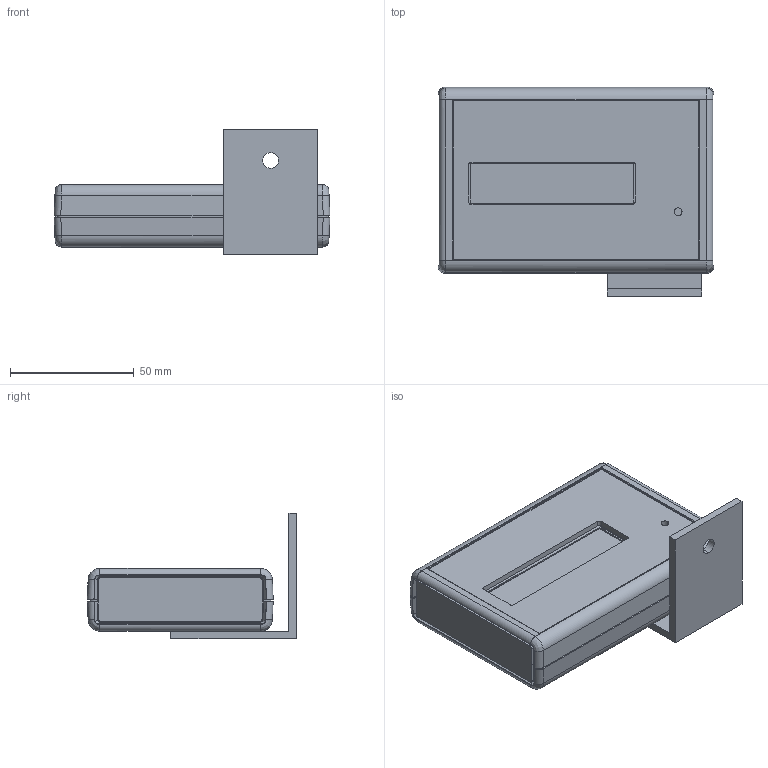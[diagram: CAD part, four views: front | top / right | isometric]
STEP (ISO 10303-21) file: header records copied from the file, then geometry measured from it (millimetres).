
FILE_DESCRIPTION (( 'STEP AP214' ), '1' );
FILE_NAME ('MAXTACH1593N.STEP', '2012-05-22T05:02:43', ( 'wamuser' ), ( '' ), 'SwSTEP 2.0', 'SolidWorks 2012', '' );
FILE_SCHEMA (( 'AUTOMOTIVE_DESIGN' ));
Length unit declared in the file: inch
Products named in the file (13): maxtach-bracket1; sj1-3515n; BOU3314J; SW3dPS-RAPC712; Arduino-Pro-Min; 16X1_1INCHheader-LCD_20 Way; LCM-S01602DSF_A_LCD module 16 X 2 backlight; MAXTACH1593N-pcb; MAXTACH1593N-machend2; MAXTACH1593N-machend1; MAXTACH1593N Top; MAXTACH1593N Bottom; MAXTACH1593N
Assembly tree (13 placements, depth 2):
  MAXTACH1593N
    MAXTACH1593N Bottom
    MAXTACH1593N Top
    MAXTACH1593N-machend1
    MAXTACH1593N-machend2
    MAXTACH1593N-pcb
    LCM-S01602DSF_A_LCD module 16 X 2 backlight
    16X1_1INCHheader-LCD_20 Way
    Arduino-Pro-Min
    SW3dPS-RAPC712
    BOU3314J  x2
    sj1-3515n
    maxtach-bracket1
Bounding box: 111.25 x 84.49 x 50.8 mm (x, y, z)
Volume: 103470.7 mm3; surface area: 88401 mm2
Topology: 32 solids, 32 shells, 2926 faces, 7602 edges, 4959 vertices
Faces by surface type: plane 2053, cylinder 535, bspline 250, cone 42, torus 30, sphere 16
Entity records: 95392 total; most frequent: CARTESIAN_POINT 25020, ORIENTED_EDGE 12532, DIRECTION 11017, EDGE_CURVE 6266, VECTOR 4671, LINE 4671, VERTEX_POINT 4084, AXIS2_PLACEMENT_3D 3173
